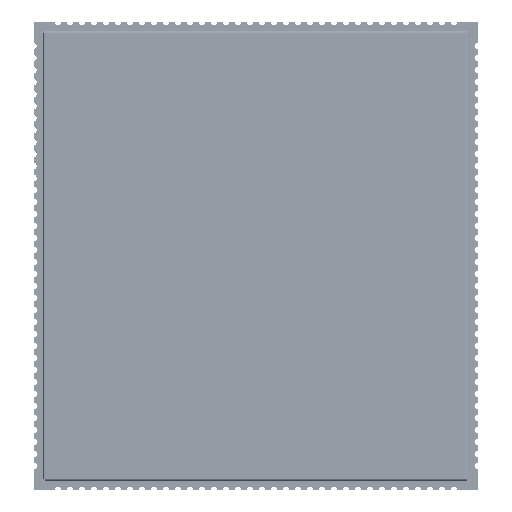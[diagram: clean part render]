
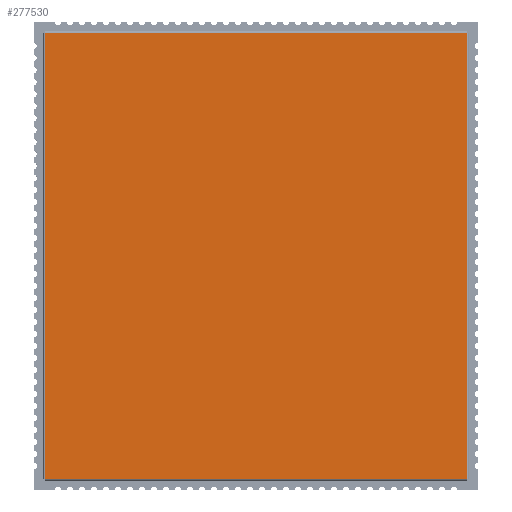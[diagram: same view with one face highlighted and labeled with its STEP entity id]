
A CAD part, top view. The second image highlights one B-rep face of the part: STEP entity #277530.
In plain terms, the highlighted planar face has unit normal (0, 0, 1) as drawn and (0, 1, 0) by its records, which use the part's own axes.
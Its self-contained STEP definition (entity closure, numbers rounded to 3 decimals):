
#274043=DIRECTION('',(0.,0.,-1.));
#274044=VECTOR('',#274043,37.1);
#274045=CARTESIAN_POINT('',(-17.55,0.2,18.55));
#274046=LINE('',#274045,#274044);
#275383=DIRECTION('',(-1.,0.,0.));
#275384=VECTOR('',#275383,35.1);
#275385=CARTESIAN_POINT('',(17.55,0.2,18.55));
#275386=LINE('',#275385,#275384);
#275413=DIRECTION('',(1.,0.,0.));
#275414=VECTOR('',#275413,35.1);
#275415=CARTESIAN_POINT('',(-17.55,0.2,-18.55));
#275416=LINE('',#275415,#275414);
#275458=DIRECTION('',(0.,0.,1.));
#275459=VECTOR('',#275458,37.1);
#275460=CARTESIAN_POINT('',(17.55,0.2,-18.55));
#275461=LINE('',#275460,#275459);
#275647=CARTESIAN_POINT('',(-17.55,0.2,-18.55));
#275648=VERTEX_POINT('',#275647);
#275649=CARTESIAN_POINT('',(-17.55,0.2,18.55));
#275650=VERTEX_POINT('',#275649);
#275659=CARTESIAN_POINT('',(17.55,0.2,18.55));
#275660=VERTEX_POINT('',#275659);
#275661=CARTESIAN_POINT('',(17.55,0.2,-18.55));
#275662=VERTEX_POINT('',#275661);
#277517=CARTESIAN_POINT('',(0.,0.2,0.));
#277518=DIRECTION('',(0.,1.,0.));
#277519=DIRECTION('',(1.,0.,0.));
#277520=AXIS2_PLACEMENT_3D('',#277517,#277518,#277519);
#277521=PLANE('',#277520);
#277522=ORIENTED_EDGE('',*,*,#277508,.T.);
#277523=ORIENTED_EDGE('',*,*,#276321,.T.);
#277525=ORIENTED_EDGE('',*,*,#277524,.T.);
#277527=ORIENTED_EDGE('',*,*,#277526,.T.);
#277528=EDGE_LOOP('',(#277522,#277523,#277525,#277527));
#277529=FACE_OUTER_BOUND('',#277528,.F.);
#276321=EDGE_CURVE('',#275650,#275648,#274046,.T.);
#277508=EDGE_CURVE('',#275660,#275650,#275386,.T.);
#277524=EDGE_CURVE('',#275648,#275662,#275416,.T.);
#277526=EDGE_CURVE('',#275662,#275660,#275461,.T.);
#277530=ADVANCED_FACE('',(#277529),#277521,.T.);
